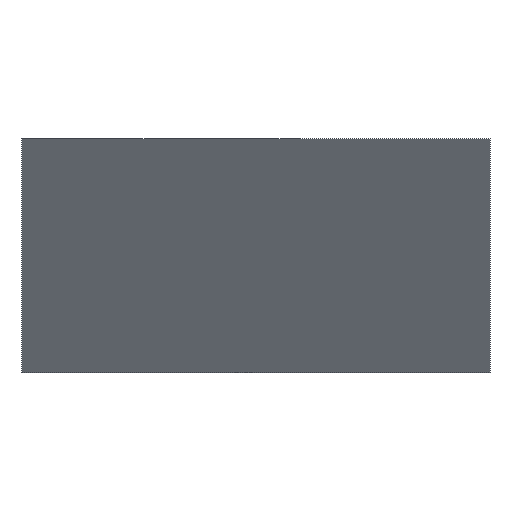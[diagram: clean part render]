
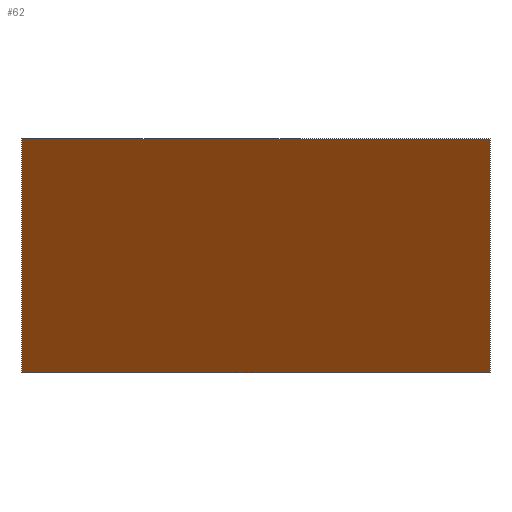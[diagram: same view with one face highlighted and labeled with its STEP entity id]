
A CAD part, front view. The second image highlights one B-rep face of the part: STEP entity #62.
In plain terms, the highlighted planar face has unit normal (0, -0.309, -0.951).
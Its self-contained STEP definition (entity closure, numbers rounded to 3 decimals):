
#10 = ORIENTED_EDGE ( 'NONE', *, *, #47, .F. ) ;
#12 = FACE_OUTER_BOUND ( 'NONE', #56, .T. ) ;
#17 = CARTESIAN_POINT ( 'NONE',  ( 24., -136.5, 24. ) ) ;
#18 = DIRECTION ( 'NONE',  ( 0., -0.951, 0.309 ) ) ;
#25 = VECTOR ( 'NONE', #104, 1000. ) ;
#31 = ORIENTED_EDGE ( 'NONE', *, *, #67, .F. ) ;
#33 = VERTEX_POINT ( 'NONE', #60 ) ;
#37 = LINE ( 'NONE', #125, #25 ) ;
#39 = CARTESIAN_POINT ( 'NONE',  ( -24., -62.636, 0. ) ) ;
#43 = AXIS2_PLACEMENT_3D ( 'NONE', #196, #221, #78 ) ;
#46 = CARTESIAN_POINT ( 'NONE',  ( 24., -136.5, 24. ) ) ;
#47 = EDGE_CURVE ( 'NONE', #50, #140, #144, .T. ) ;
#48 = CARTESIAN_POINT ( 'NONE',  ( -24., -62.636, 0. ) ) ;
#50 = VERTEX_POINT ( 'NONE', #39 ) ;
#56 = EDGE_LOOP ( 'NONE', ( #228, #31, #10, #136 ) ) ;
#57 = VECTOR ( 'NONE', #160, 1000. ) ;
#60 = CARTESIAN_POINT ( 'NONE',  ( 24., -62.636, 0. ) ) ;
#62 = ADVANCED_FACE ( 'NONE', ( #12 ), #148, .F. ) ;
#67 = EDGE_CURVE ( 'NONE', #140, #91, #37, .T. ) ;
#68 = LINE ( 'NONE', #48, #156 ) ;
#78 = DIRECTION ( 'NONE',  ( 0., -0.951, 0.309 ) ) ;
#81 = CARTESIAN_POINT ( 'NONE',  ( -24., -136.5, 24. ) ) ;
#91 = VERTEX_POINT ( 'NONE', #17 ) ;
#104 = DIRECTION ( 'NONE',  ( 1., 0., 0. ) ) ;
#125 = CARTESIAN_POINT ( 'NONE',  ( -24., -136.5, 24. ) ) ;
#136 = ORIENTED_EDGE ( 'NONE', *, *, #175, .T. ) ;
#140 = VERTEX_POINT ( 'NONE', #184 ) ;
#144 = LINE ( 'NONE', #81, #57 ) ;
#148 = PLANE ( 'NONE',  #43 ) ;
#156 = VECTOR ( 'NONE', #166, 1000. ) ;
#160 = DIRECTION ( 'NONE',  ( 0., -0.951, 0.309 ) ) ;
#166 = DIRECTION ( 'NONE',  ( 1., 0., 0. ) ) ;
#175 = EDGE_CURVE ( 'NONE', #50, #33, #68, .T. ) ;
#184 = CARTESIAN_POINT ( 'NONE',  ( -24., -136.5, 24. ) ) ;
#196 = CARTESIAN_POINT ( 'NONE',  ( -24., -136.5, 24. ) ) ;
#214 = VECTOR ( 'NONE', #18, 1000. ) ;
#221 = DIRECTION ( 'NONE',  ( 0., 0.309, 0.951 ) ) ;
#223 = EDGE_CURVE ( 'NONE', #33, #91, #224, .T. ) ;
#224 = LINE ( 'NONE', #46, #214 ) ;
#228 = ORIENTED_EDGE ( 'NONE', *, *, #223, .T. ) ;
